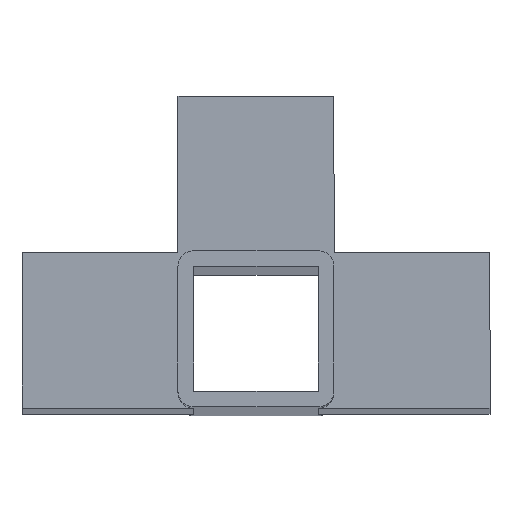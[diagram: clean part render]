
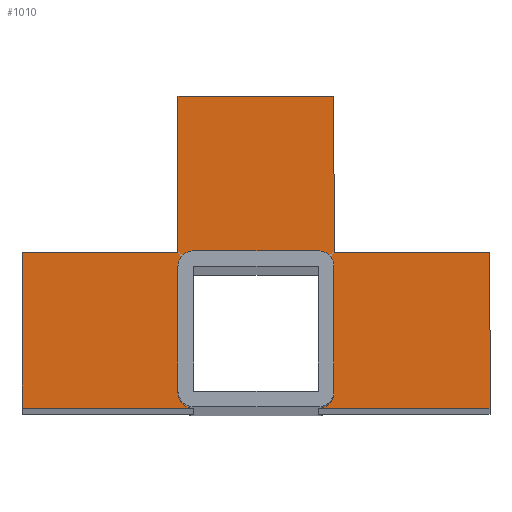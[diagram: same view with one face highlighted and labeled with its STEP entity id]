
A CAD part, top view. The second image highlights one B-rep face of the part: STEP entity #1010.
In plain terms, the highlighted planar face has unit normal (0, 0, 1).
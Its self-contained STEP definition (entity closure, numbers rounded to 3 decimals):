
#32 = CARTESIAN_POINT ( 'NONE',  ( -15., 0., 350. ) ) ;
#48 = CARTESIAN_POINT ( 'NONE',  ( -12., 15., 350. ) ) ;
#51 = AXIS2_PLACEMENT_3D ( 'NONE', #1482, #2675, #1004 ) ;
#61 = CARTESIAN_POINT ( 'NONE',  ( 15., 12., 350. ) ) ;
#98 = EDGE_CURVE ( 'NONE', #985, #2795, #1360, .T. ) ;
#111 = ORIENTED_EDGE ( 'NONE', *, *, #265, .F. ) ;
#122 = AXIS2_PLACEMENT_3D ( 'NONE', #1248, #1205, #545 ) ;
#123 = VECTOR ( 'NONE', #1736, 1000. ) ;
#129 = CARTESIAN_POINT ( 'NONE',  ( -15., 0., 350. ) ) ;
#149 = ORIENTED_EDGE ( 'NONE', *, *, #1066, .F. ) ;
#176 = LINE ( 'NONE', #1026, #880 ) ;
#185 = DIRECTION ( 'NONE',  ( -1., 0., 0. ) ) ;
#245 = VECTOR ( 'NONE', #1712, 1000. ) ;
#248 = AXIS2_PLACEMENT_3D ( 'NONE', #2172, #990, #1216 ) ;
#264 = PLANE ( 'NONE',  #122 ) ;
#265 = EDGE_CURVE ( 'NONE', #529, #1158, #1514, .T. ) ;
#269 = ORIENTED_EDGE ( 'NONE', *, *, #933, .T. ) ;
#270 = EDGE_CURVE ( 'NONE', #1136, #2694, #1166, .T. ) ;
#273 = VERTEX_POINT ( 'NONE', #2462 ) ;
#338 = CARTESIAN_POINT ( 'NONE',  ( 45., -15., 350. ) ) ;
#352 = DIRECTION ( 'NONE',  ( 0., 1., 0. ) ) ;
#353 = EDGE_CURVE ( 'NONE', #2694, #1107, #2572, .T. ) ;
#423 = EDGE_CURVE ( 'NONE', #1864, #2448, #2910, .T. ) ;
#485 = CARTESIAN_POINT ( 'NONE',  ( 45., 0., 350. ) ) ;
#520 = EDGE_CURVE ( 'NONE', #2729, #1383, #1348, .T. ) ;
#529 = VERTEX_POINT ( 'NONE', #2685 ) ;
#535 = VERTEX_POINT ( 'NONE', #559 ) ;
#545 = DIRECTION ( 'NONE',  ( 1., 0., 0. ) ) ;
#553 = DIRECTION ( 'NONE',  ( 1., 0., 0. ) ) ;
#559 = CARTESIAN_POINT ( 'NONE',  ( 15., 45., 350. ) ) ;
#592 = VECTOR ( 'NONE', #2749, 1000. ) ;
#593 = VECTOR ( 'NONE', #2684, 1000. ) ;
#656 = ORIENTED_EDGE ( 'NONE', *, *, #955, .F. ) ;
#659 = AXIS2_PLACEMENT_3D ( 'NONE', #1985, #999, #553 ) ;
#699 = ORIENTED_EDGE ( 'NONE', *, *, #353, .F. ) ;
#723 = ORIENTED_EDGE ( 'NONE', *, *, #520, .F. ) ;
#726 = AXIS2_PLACEMENT_3D ( 'NONE', #2965, #2705, #1283 ) ;
#804 = VECTOR ( 'NONE', #185, 1000. ) ;
#824 = CARTESIAN_POINT ( 'NONE',  ( -45., 0., 350. ) ) ;
#850 = EDGE_CURVE ( 'NONE', #535, #1136, #176, .T. ) ;
#878 = CARTESIAN_POINT ( 'NONE',  ( -15., 12., 350. ) ) ;
#880 = VECTOR ( 'NONE', #1765, 1000. ) ;
#926 = CARTESIAN_POINT ( 'NONE',  ( -15., 45., 350. ) ) ;
#930 = VERTEX_POINT ( 'NONE', #61 ) ;
#933 = EDGE_CURVE ( 'NONE', #2795, #930, #1666, .T. ) ;
#955 = EDGE_CURVE ( 'NONE', #985, #1864, #1361, .T. ) ;
#974 = LINE ( 'NONE', #987, #123 ) ;
#985 = VERTEX_POINT ( 'NONE', #48 ) ;
#987 = CARTESIAN_POINT ( 'NONE',  ( 15., 0., 350. ) ) ;
#990 = DIRECTION ( 'NONE',  ( 0., 0., -1. ) ) ;
#999 = DIRECTION ( 'NONE',  ( 0., 0., 1. ) ) ;
#1004 = DIRECTION ( 'NONE',  ( 1., 0., 0. ) ) ;
#1006 = VECTOR ( 'NONE', #352, 1000. ) ;
#1010 = ADVANCED_FACE ( 'NONE', ( #1627 ), #264, .T. ) ;
#1026 = CARTESIAN_POINT ( 'NONE',  ( 15., 0., 350. ) ) ;
#1055 = CIRCLE ( 'NONE', #659, 3. ) ;
#1061 = CARTESIAN_POINT ( 'NONE',  ( -45., -15., 350. ) ) ;
#1066 = EDGE_CURVE ( 'NONE', #273, #2729, #3075, .T. ) ;
#1082 = CARTESIAN_POINT ( 'NONE',  ( 0., 45., 350. ) ) ;
#1096 = VECTOR ( 'NONE', #2046, 1000. ) ;
#1107 = VERTEX_POINT ( 'NONE', #338 ) ;
#1136 = VERTEX_POINT ( 'NONE', #1776 ) ;
#1146 = CARTESIAN_POINT ( 'NONE',  ( 0., 15., 350. ) ) ;
#1158 = VERTEX_POINT ( 'NONE', #1061 ) ;
#1166 = LINE ( 'NONE', #1146, #245 ) ;
#1205 = DIRECTION ( 'NONE',  ( 0., 0., 1. ) ) ;
#1216 = DIRECTION ( 'NONE',  ( 1., 0., 0. ) ) ;
#1248 = CARTESIAN_POINT ( 'NONE',  ( 0., 0., 350. ) ) ;
#1250 = EDGE_CURVE ( 'NONE', #1383, #535, #2696, .T. ) ;
#1283 = DIRECTION ( 'NONE',  ( 1., 0., 0. ) ) ;
#1326 = ORIENTED_EDGE ( 'NONE', *, *, #850, .F. ) ;
#1348 = LINE ( 'NONE', #129, #1096 ) ;
#1360 = LINE ( 'NONE', #1728, #593 ) ;
#1361 = CIRCLE ( 'NONE', #51, 3. ) ;
#1368 = CARTESIAN_POINT ( 'NONE',  ( -15., 15., 350. ) ) ;
#1381 = ORIENTED_EDGE ( 'NONE', *, *, #1476, .F. ) ;
#1383 = VERTEX_POINT ( 'NONE', #926 ) ;
#1386 = CARTESIAN_POINT ( 'NONE',  ( 0., -15., 350. ) ) ;
#1398 = ORIENTED_EDGE ( 'NONE', *, *, #2378, .F. ) ;
#1435 = ORIENTED_EDGE ( 'NONE', *, *, #98, .T. ) ;
#1438 = EDGE_LOOP ( 'NONE', ( #656, #1435, #269, #1493, #2434, #1381, #699, #1629, #1326, #2898, #723, #149, #1398, #111, #2612, #1699 ) ) ;
#1476 = EDGE_CURVE ( 'NONE', #1107, #1918, #2690, .T. ) ;
#1482 = CARTESIAN_POINT ( 'NONE',  ( -12., 12., 350. ) ) ;
#1493 = ORIENTED_EDGE ( 'NONE', *, *, #1662, .T. ) ;
#1514 = LINE ( 'NONE', #2002, #2103 ) ;
#1627 = FACE_OUTER_BOUND ( 'NONE', #1438, .T. ) ;
#1629 = ORIENTED_EDGE ( 'NONE', *, *, #270, .F. ) ;
#1662 = EDGE_CURVE ( 'NONE', #930, #2681, #974, .T. ) ;
#1666 = CIRCLE ( 'NONE', #248, 3. ) ;
#1699 = ORIENTED_EDGE ( 'NONE', *, *, #423, .F. ) ;
#1701 = EDGE_CURVE ( 'NONE', #2448, #529, #1055, .T. ) ;
#1712 = DIRECTION ( 'NONE',  ( 1., 0., 0. ) ) ;
#1728 = CARTESIAN_POINT ( 'NONE',  ( 0., 15., 350. ) ) ;
#1736 = DIRECTION ( 'NONE',  ( 0., -1., 0. ) ) ;
#1765 = DIRECTION ( 'NONE',  ( 0., -1., 0. ) ) ;
#1766 = CARTESIAN_POINT ( 'NONE',  ( 0., 15., 350. ) ) ;
#1776 = CARTESIAN_POINT ( 'NONE',  ( 15., 15., 350. ) ) ;
#1792 = EDGE_CURVE ( 'NONE', #1918, #2681, #2587, .T. ) ;
#1864 = VERTEX_POINT ( 'NONE', #878 ) ;
#1869 = CARTESIAN_POINT ( 'NONE',  ( 15., -12., 350. ) ) ;
#1918 = VERTEX_POINT ( 'NONE', #3032 ) ;
#1975 = DIRECTION ( 'NONE',  ( 1., 0., 0. ) ) ;
#1976 = CARTESIAN_POINT ( 'NONE',  ( -15., -12., 350. ) ) ;
#1985 = CARTESIAN_POINT ( 'NONE',  ( -12., -12., 350. ) ) ;
#2002 = CARTESIAN_POINT ( 'NONE',  ( 0., -15., 350. ) ) ;
#2046 = DIRECTION ( 'NONE',  ( 0., 1., 0. ) ) ;
#2097 = VECTOR ( 'NONE', #2195, 1000. ) ;
#2103 = VECTOR ( 'NONE', #2338, 1000. ) ;
#2172 = CARTESIAN_POINT ( 'NONE',  ( 12., 12., 350. ) ) ;
#2195 = DIRECTION ( 'NONE',  ( 0., -1., 0. ) ) ;
#2338 = DIRECTION ( 'NONE',  ( -1., 0., 0. ) ) ;
#2378 = EDGE_CURVE ( 'NONE', #1158, #273, #2677, .T. ) ;
#2434 = ORIENTED_EDGE ( 'NONE', *, *, #1792, .F. ) ;
#2448 = VERTEX_POINT ( 'NONE', #1976 ) ;
#2462 = CARTESIAN_POINT ( 'NONE',  ( -45., 15., 350. ) ) ;
#2572 = LINE ( 'NONE', #485, #3071 ) ;
#2577 = VECTOR ( 'NONE', #1975, 1000. ) ;
#2587 = CIRCLE ( 'NONE', #726, 3. ) ;
#2612 = ORIENTED_EDGE ( 'NONE', *, *, #1701, .F. ) ;
#2617 = DIRECTION ( 'NONE',  ( 0., -1., 0. ) ) ;
#2675 = DIRECTION ( 'NONE',  ( 0., 0., 1. ) ) ;
#2677 = LINE ( 'NONE', #824, #1006 ) ;
#2681 = VERTEX_POINT ( 'NONE', #1869 ) ;
#2684 = DIRECTION ( 'NONE',  ( 1., 0., 0. ) ) ;
#2685 = CARTESIAN_POINT ( 'NONE',  ( -12., -15., 350. ) ) ;
#2690 = LINE ( 'NONE', #1386, #804 ) ;
#2694 = VERTEX_POINT ( 'NONE', #3058 ) ;
#2696 = LINE ( 'NONE', #1082, #592 ) ;
#2705 = DIRECTION ( 'NONE',  ( 0., 0., 1. ) ) ;
#2729 = VERTEX_POINT ( 'NONE', #1368 ) ;
#2749 = DIRECTION ( 'NONE',  ( 1., 0., 0. ) ) ;
#2795 = VERTEX_POINT ( 'NONE', #3094 ) ;
#2898 = ORIENTED_EDGE ( 'NONE', *, *, #1250, .F. ) ;
#2910 = LINE ( 'NONE', #32, #2097 ) ;
#2965 = CARTESIAN_POINT ( 'NONE',  ( 12., -12., 350. ) ) ;
#3032 = CARTESIAN_POINT ( 'NONE',  ( 12., -15., 350. ) ) ;
#3058 = CARTESIAN_POINT ( 'NONE',  ( 45., 15., 350. ) ) ;
#3071 = VECTOR ( 'NONE', #2617, 1000. ) ;
#3075 = LINE ( 'NONE', #1766, #2577 ) ;
#3094 = CARTESIAN_POINT ( 'NONE',  ( 12., 15., 350. ) ) ;
